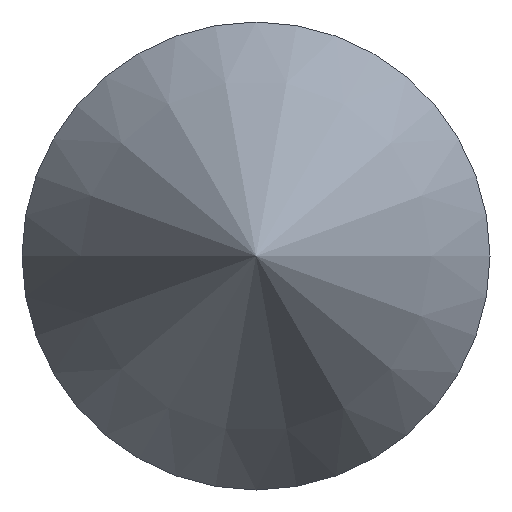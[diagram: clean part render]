
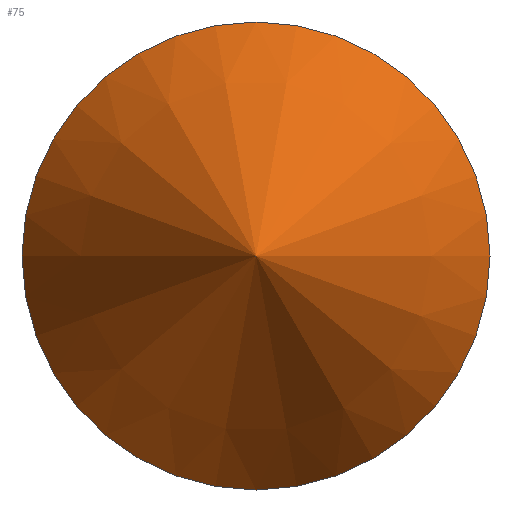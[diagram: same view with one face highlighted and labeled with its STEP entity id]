
A CAD part, left-side view. The second image highlights one B-rep face of the part: STEP entity #75.
In plain terms, the highlighted conical face has half-angle 30 degrees and reference radius 4.877 mm.
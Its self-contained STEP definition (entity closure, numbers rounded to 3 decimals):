
#18=FACE_OUTER_BOUND('',#23,.T.);
#23=EDGE_LOOP('',(#55,#56,#57));
#28=LINE('',#146,#31);
#31=VECTOR('',#120,4.877);
#34=CIRCLE('',#104,9.755);
#40=VERTEX_POINT('',#143);
#41=VERTEX_POINT('',#145);
#46=EDGE_CURVE('',#40,#40,#34,.T.);
#47=EDGE_CURVE('',#40,#41,#28,.T.);
#55=ORIENTED_EDGE('',*,*,#46,.F.);
#56=ORIENTED_EDGE('',*,*,#47,.T.);
#57=ORIENTED_EDGE('',*,*,#47,.F.);
#73=CONICAL_SURFACE('',#103,4.877,0.524);
#75=ADVANCED_FACE('',(#18),#73,.T.);
#103=AXIS2_PLACEMENT_3D('',#142,#116,#117);
#104=AXIS2_PLACEMENT_3D('',#144,#118,#119);
#116=DIRECTION('center_axis',(1.,0.,0.));
#117=DIRECTION('ref_axis',(0.,1.,0.));
#118=DIRECTION('center_axis',(1.,0.,0.));
#119=DIRECTION('ref_axis',(0.,0.,-1.));
#120=DIRECTION('',(-0.866,0.5,0.));
#142=CARTESIAN_POINT('Origin',(-22.552,0.,0.));
#143=CARTESIAN_POINT('',(-14.105,-9.755,0.));
#144=CARTESIAN_POINT('Origin',(-14.105,0.,0.));
#145=CARTESIAN_POINT('',(-31.,0.,0.));
#146=CARTESIAN_POINT('',(-22.552,-4.877,0.));
